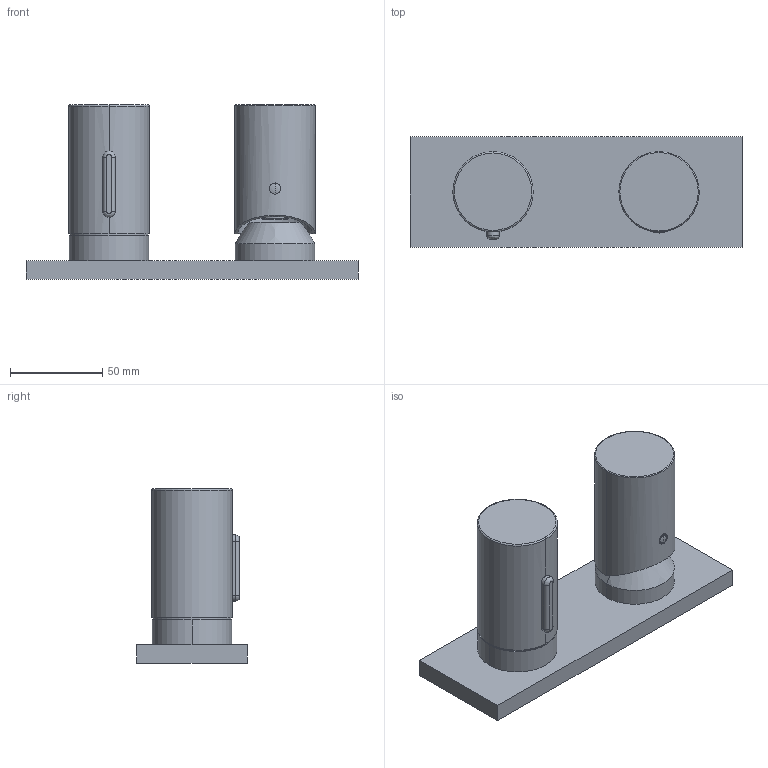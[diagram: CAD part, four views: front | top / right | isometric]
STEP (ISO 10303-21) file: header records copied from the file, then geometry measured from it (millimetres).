
FILE_DESCRIPTION((''),'2;1');
FILE_NAME('DIS_3D_G784B_M687A_ASM','2025-05-05T16:45:26',('Luca'),(''),'CREO PARAMETRIC BY PTC INC, 2025010','CREO PARAMETRIC BY PTC INC, 2025010','');
FILE_SCHEMA(('AUTOMOTIVE_DESIGN { 1 0 10303 214 1 1 1 1 }'));
Length unit declared in the file: millimetre
Products named in the file (9): PL00902580000000; LABEL-3663; LABEL-4369; 0400A01710000000; LABEL-7115; LABEL-7395; TOP_ASM; NS00000030000000; DIS_3D_G784B_M687A_ASM
Assembly tree (8 placements, depth 3):
  DIS_3D_G784B_M687A_ASM
    TOP_ASM
      PL00902580000000
      LABEL-3663
      LABEL-4369
      0400A01710000000
      LABEL-7115
      LABEL-7395
    NS00000030000000
Bounding box: 180 x 60 x 94.5 mm (x, y, z)
Volume: 283128.3 mm3; surface area: 73870.7 mm2
Topology: 7 solids, 8 shells, 190 faces, 541 edges, 386 vertices
Faces by surface type: cylinder 69, plane 65, cone 23, torus 21, bspline 10, sphere 2
Entity records: 11068 total; most frequent: CARTESIAN_POINT 2976, DIRECTION 1308, ORIENTED_EDGE 1020, AXIS2_PLACEMENT_3D 534, EDGE_CURVE 512, VERTEX_POINT 353, PRESENTATION_STYLE_ASSIGNMENT 332, STYLED_ITEM 331
